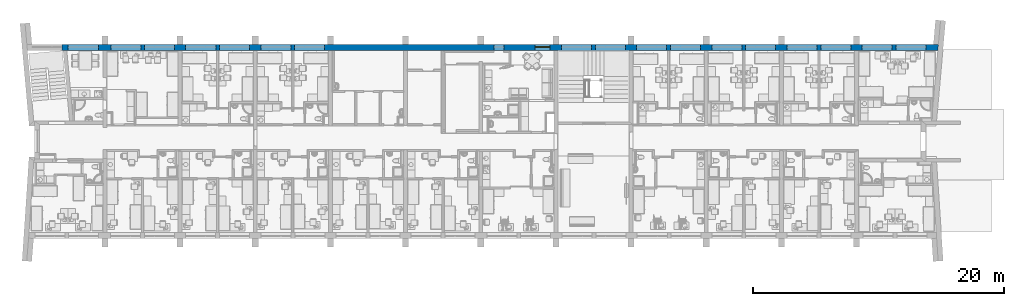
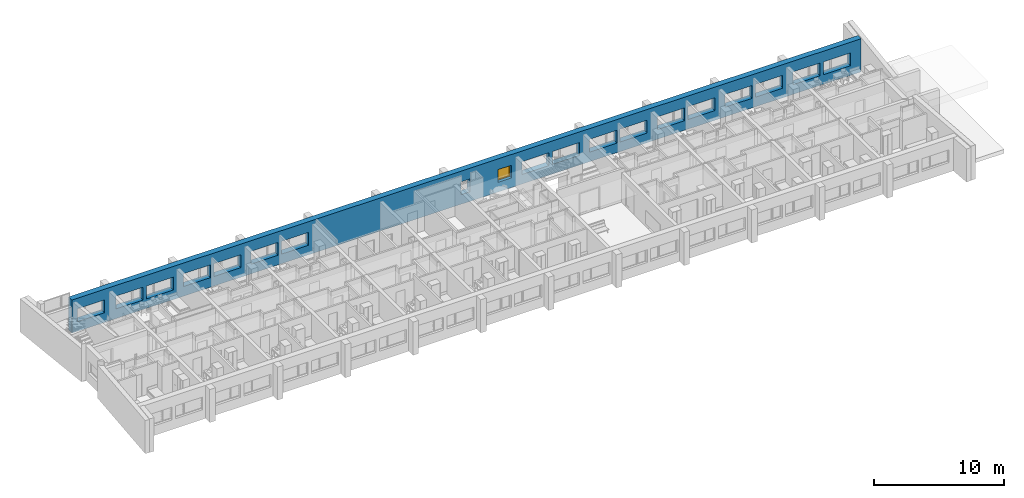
# One storey, part 18 of 172: 1 wall, 1 window, 19 openings.
"""IFC2X3 building model written with IfcOpenShell, lengths in millimetres."""

from ifc_helpers import new_model, entity, si_unit, converted_unit, money_unit, direction, frame, origin_with_axes, place, context, subcontext, project, spatial, polyline, outline, extrude, open_shell, faceted_brep, surface_model, source, transform, mapped, material, material_list, layer, layer_set, layer_usage, type_object, element, fill, save


model = new_model("IFC2X3")

# Units and contexts
model_context = context("Model", 3, precision=1e-05, world=origin_with_axes(), true_north=direction((0.0, 1.0)))
body_context = subcontext(model_context, "Body", "Model", "MODEL_VIEW")
ifc_project = project(units=[si_unit("LENGTHUNIT", "METRE", prefix="MILLI"), si_unit("AREAUNIT", "SQUARE_METRE"), si_unit("VOLUMEUNIT", "CUBIC_METRE"), converted_unit("PLANEANGLEUNIT", "DEGREE", entity("IfcPlaneAngleMeasure", 0.0174532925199), si_unit("PLANEANGLEUNIT", "RADIAN"), dimensions=[0, 0, 0, 0, 0, 0, 0]), si_unit("SOLIDANGLEUNIT", "STERADIAN"), money_unit("USD"), converted_unit("TIMEUNIT", "Year", entity("IfcTimeMeasure", 31556926.0), si_unit("TIMEUNIT", "SECOND"), dimensions=[0, 0, 0, 0, 0, 0, 0]), si_unit("MASSUNIT", "GRAM"), si_unit("THERMODYNAMICTEMPERATUREUNIT", "DEGREE_CELSIUS"), si_unit("LUMINOUSINTENSITYUNIT", "LUMEN")], contexts=[model_context])

# Site, building, storey
site_placement = place(None, origin_with_axes())
site = spatial("IfcSite", under=ifc_project, at=site_placement, Name="Site", CompositionType="ELEMENT")
building_placement = place(site_placement, origin_with_axes())
building = spatial("IfcBuilding", under=site, at=building_placement, Name="Building", CompositionType="ELEMENT")
storey_placement = place(building_placement, frame((0.0, 0.0, 3200.0), z_axis=(0.0, 0.0, 1.0), x_axis=(1.0, 0.0, 0.0)))
storey = spatial("IfcBuildingStorey", under=building, at=storey_placement, Name="3KORRUS", CompositionType="ELEMENT", Elevation=3200.0)

# Wall, openings, window
ifc_material_1 = material(Name="Olemasolevad seinad tellis, uus viimistlus")
ifc_layer = layer(ifc_material_1, 500.0, ventilated="UNKNOWN")
ifc_layer_set = layer_set([ifc_layer], Name="Olemasolevad seinad tellis, uus viimistlus 500")
ifc_layer_usage = layer_usage(ifc_layer_set, "AXIS2", "POSITIVE", -100.0)
wall_type = type_object("IfcWallType", Name="Olemasolevad seinad tellis, uus viimistlus 500", PredefinedType="NOTDEFINED")
wall_placement = place(storey_placement, frame((-51569.3388124, -5039.6041088, 0.0), z_axis=(0.0, 0.0, 1.0), x_axis=(1.0, 0.0, 0.0)))
wall = element("IfcWallStandardCase", 1, at=wall_placement, inside=storey, type_object=wall_type, material=ifc_layer_usage, Name="VS1", ObjectType="VS1", context=body_context, shape_type="SweptSolid", body=[
    extrude(outline(polyline([(0.0, -100.0), (69914.7195482, -100.0), (69959.6995146, 400.0), (0.0, 400.0), (0.0, -100.0)])), origin_with_axes(), (0.0, 0.0, 1.0), 3100.0),
])
opening_1_placement = place(wall_placement, frame((34879.0421091, 0.0, 900.0), z_axis=(0.0, 0.0, 1.0), x_axis=(1.0, 0.0, 0.0)))
element("IfcOpeningElement", 2, at=opening_1_placement, cuts=wall, Name="WD - 001", context=body_context, shape_type="SweptSolid", body=[
    extrude(outline(polyline([(-400.0, 1200.0), (-400.0, 0.0), (400.0, 0.0), (400.0, 1200.0), (-400.0, 1200.0)])), frame((0.0, 200.0, 0.0), z_axis=(0.0, -1.0, 0.0), x_axis=(1.0, 0.0, 0.0)), (0.0, 0.0, 1.0), 800.0),
    extrude(outline(polyline([(-400.0, 0.0), (-400.0, -1200.0), (400.0, -1200.0), (400.0, 0.0), (-400.0, 0.0)])), frame((0.0, 200.0, 0.0), z_axis=(0.0, 1.0, 0.0), x_axis=(1.0, 0.0, 0.0)), (0.0, 0.0, 1.0), 700.0),
])
opening_2_placement = place(wall_placement, frame((38352.6323068, 0.0, 900.0), z_axis=(0.0, 0.0, 1.0), x_axis=(1.0, 0.0, 0.0)))
opening_2 = element("IfcOpeningElement", 3, at=opening_2_placement, cuts=wall, Name="A3", context=body_context, shape_type="SweptSolid", body=[
    extrude(outline(polyline([(-600.0, 1200.0), (-600.0, 0.0), (600.0, 0.0), (600.0, 1200.0), (-600.0, 1200.0)])), frame((0.0, 200.0, 0.0), z_axis=(0.0, -1.0, 0.0), x_axis=(1.0, 0.0, 0.0)), (0.0, 0.0, 1.0), 800.0),
    extrude(outline(polyline([(-600.0, 0.0), (-600.0, -1200.0), (600.0, -1200.0), (600.0, 0.0), (-600.0, 0.0)])), frame((0.0, 200.0, 0.0), z_axis=(0.0, 1.0, 0.0), x_axis=(1.0, 0.0, 0.0)), (0.0, 0.0, 1.0), 700.0),
])
opening_3_placement = place(wall_placement, frame((1700.0, 0.0, 900.0), z_axis=(0.0, 0.0, 1.0), x_axis=(1.0, 0.0, 0.0)))
element("IfcOpeningElement", 4, at=opening_3_placement, cuts=wall, Name="A1", context=body_context, shape_type="SweptSolid", body=[
    extrude(outline(polyline([(1200.0, 1200.0), (-1200.0, 1200.0), (-1200.0, 0.0), (1200.0, 0.0), (1200.0, 1200.0)])), frame((0.0, 200.0, 0.0), z_axis=(0.0, -1.0, 0.0), x_axis=(1.0, 0.0, 0.0)), (0.0, 0.0, 1.0), 800.0),
    extrude(outline(polyline([(1200.0, 0.0), (-1200.0, 0.0), (-1200.0, -1200.0), (1200.0, -1200.0), (1200.0, 0.0)])), frame((0.0, 200.0, 0.0), z_axis=(0.0, 1.0, 0.0), x_axis=(1.0, 0.0, 0.0)), (0.0, 0.0, 1.0), 700.0),
])
opening_4_placement = place(wall_placement, frame((7795.91085613, 0.0, 900.0), z_axis=(0.0, 0.0, 1.0), x_axis=(1.0, 0.0, 0.0)))
element("IfcOpeningElement", 5, at=opening_4_placement, cuts=wall, Name="A1", context=body_context, shape_type="SweptSolid", body=[
    extrude(outline(polyline([(1200.0, 1200.0), (-1200.0, 1200.0), (-1200.0, 0.0), (1200.0, 0.0), (1200.0, 1200.0)])), frame((0.0, 200.0, 0.0), z_axis=(0.0, -1.0, 0.0), x_axis=(1.0, 0.0, 0.0)), (0.0, 0.0, 1.0), 800.0),
    extrude(outline(polyline([(1200.0, 0.0), (-1200.0, 0.0), (-1200.0, -1200.0), (1200.0, -1200.0), (1200.0, 0.0)])), frame((0.0, 200.0, 0.0), z_axis=(0.0, 1.0, 0.0), x_axis=(1.0, 0.0, 0.0)), (0.0, 0.0, 1.0), 700.0),
])
opening_5_placement = place(wall_placement, frame((5095.91085613, 0.0, 900.0), z_axis=(0.0, 0.0, 1.0), x_axis=(1.0, 0.0, 0.0)))
element("IfcOpeningElement", 6, at=opening_5_placement, cuts=wall, Name="A2", context=body_context, shape_type="SweptSolid", body=[
    extrude(outline(polyline([(-1200.0, 1200.0), (-1200.0, 0.0), (1200.0, 0.0), (1200.0, 1200.0), (-1200.0, 1200.0)])), frame((0.0, 200.0, 0.0), z_axis=(0.0, -1.0, 0.0), x_axis=(1.0, 0.0, 0.0)), (0.0, 0.0, 1.0), 800.0),
    extrude(outline(polyline([(-1200.0, 0.0), (-1200.0, -1200.0), (1200.0, -1200.0), (1200.0, 0.0), (-1200.0, 0.0)])), frame((0.0, 200.0, 0.0), z_axis=(0.0, 1.0, 0.0), x_axis=(1.0, 0.0, 0.0)), (0.0, 0.0, 1.0), 700.0),
])
opening_6_placement = place(wall_placement, frame((13779.0421091, 0.0, 900.0), z_axis=(0.0, 0.0, 1.0), x_axis=(1.0, 0.0, 0.0)))
element("IfcOpeningElement", 7, at=opening_6_placement, cuts=wall, Name="A1", context=body_context, shape_type="SweptSolid", body=[
    extrude(outline(polyline([(1200.0, 1200.0), (-1200.0, 1200.0), (-1200.0, 0.0), (1200.0, 0.0), (1200.0, 1200.0)])), frame((0.0, 200.0, 0.0), z_axis=(0.0, -1.0, 0.0), x_axis=(1.0, 0.0, 0.0)), (0.0, 0.0, 1.0), 800.0),
    extrude(outline(polyline([(1200.0, 0.0), (-1200.0, 0.0), (-1200.0, -1200.0), (1200.0, -1200.0), (1200.0, 0.0)])), frame((0.0, 200.0, 0.0), z_axis=(0.0, 1.0, 0.0), x_axis=(1.0, 0.0, 0.0)), (0.0, 0.0, 1.0), 700.0),
])
opening_7_placement = place(wall_placement, frame((11079.0421091, 0.0, 900.0), z_axis=(0.0, 0.0, 1.0), x_axis=(1.0, 0.0, 0.0)))
element("IfcOpeningElement", 8, at=opening_7_placement, cuts=wall, Name="A2", context=body_context, shape_type="SweptSolid", body=[
    extrude(outline(polyline([(-1200.0, 1200.0), (-1200.0, 0.0), (1200.0, 0.0), (1200.0, 1200.0), (-1200.0, 1200.0)])), frame((0.0, 200.0, 0.0), z_axis=(0.0, -1.0, 0.0), x_axis=(1.0, 0.0, 0.0)), (0.0, 0.0, 1.0), 800.0),
    extrude(outline(polyline([(-1200.0, 0.0), (-1200.0, -1200.0), (1200.0, -1200.0), (1200.0, 0.0), (-1200.0, 0.0)])), frame((0.0, 200.0, 0.0), z_axis=(0.0, 1.0, 0.0), x_axis=(1.0, 0.0, 0.0)), (0.0, 0.0, 1.0), 700.0),
])
opening_8_placement = place(wall_placement, frame((43769.0421091, 0.0, 900.0), z_axis=(0.0, 0.0, 1.0), x_axis=(1.0, 0.0, 0.0)))
element("IfcOpeningElement", 9, at=opening_8_placement, cuts=wall, Name="A1", context=body_context, shape_type="SweptSolid", body=[
    extrude(outline(polyline([(1200.0, 1200.0), (-1200.0, 1200.0), (-1200.0, 0.0), (1200.0, 0.0), (1200.0, 1200.0)])), frame((0.0, 200.0, 0.0), z_axis=(0.0, -1.0, 0.0), x_axis=(1.0, 0.0, 0.0)), (0.0, 0.0, 1.0), 800.0),
    extrude(outline(polyline([(1200.0, 0.0), (-1200.0, 0.0), (-1200.0, -1200.0), (1200.0, -1200.0), (1200.0, 0.0)])), frame((0.0, 200.0, 0.0), z_axis=(0.0, 1.0, 0.0), x_axis=(1.0, 0.0, 0.0)), (0.0, 0.0, 1.0), 700.0),
])
opening_9_placement = place(wall_placement, frame((41069.0421091, 0.0, 900.0), z_axis=(0.0, 0.0, 1.0), x_axis=(1.0, 0.0, 0.0)))
element("IfcOpeningElement", 10, at=opening_9_placement, cuts=wall, Name="A2", context=body_context, shape_type="SweptSolid", body=[
    extrude(outline(polyline([(-1200.0, 1200.0), (-1200.0, 0.0), (1200.0, 0.0), (1200.0, 1200.0), (-1200.0, 1200.0)])), frame((0.0, 200.0, 0.0), z_axis=(0.0, -1.0, 0.0), x_axis=(1.0, 0.0, 0.0)), (0.0, 0.0, 1.0), 800.0),
    extrude(outline(polyline([(-1200.0, 0.0), (-1200.0, -1200.0), (1200.0, -1200.0), (1200.0, 0.0), (-1200.0, 0.0)])), frame((0.0, 200.0, 0.0), z_axis=(0.0, 1.0, 0.0), x_axis=(1.0, 0.0, 0.0)), (0.0, 0.0, 1.0), 700.0),
])
opening_10_placement = place(wall_placement, frame((49769.0421091, 0.0, 900.0), z_axis=(0.0, 0.0, 1.0), x_axis=(1.0, 0.0, 0.0)))
element("IfcOpeningElement", 11, at=opening_10_placement, cuts=wall, Name="A1", context=body_context, shape_type="SweptSolid", body=[
    extrude(outline(polyline([(1200.0, 1200.0), (-1200.0, 1200.0), (-1200.0, 0.0), (1200.0, 0.0), (1200.0, 1200.0)])), frame((0.0, 200.0, 0.0), z_axis=(0.0, -1.0, 0.0), x_axis=(1.0, 0.0, 0.0)), (0.0, 0.0, 1.0), 800.0),
    extrude(outline(polyline([(1200.0, 0.0), (-1200.0, 0.0), (-1200.0, -1200.0), (1200.0, -1200.0), (1200.0, 0.0)])), frame((0.0, 200.0, 0.0), z_axis=(0.0, 1.0, 0.0), x_axis=(1.0, 0.0, 0.0)), (0.0, 0.0, 1.0), 700.0),
])
opening_11_placement = place(wall_placement, frame((47069.0421091, 0.0, 900.0), z_axis=(0.0, 0.0, 1.0), x_axis=(1.0, 0.0, 0.0)))
element("IfcOpeningElement", 12, at=opening_11_placement, cuts=wall, Name="A2", context=body_context, shape_type="SweptSolid", body=[
    extrude(outline(polyline([(-1200.0, 1200.0), (-1200.0, 0.0), (1200.0, 0.0), (1200.0, 1200.0), (-1200.0, 1200.0)])), frame((0.0, 200.0, 0.0), z_axis=(0.0, -1.0, 0.0), x_axis=(1.0, 0.0, 0.0)), (0.0, 0.0, 1.0), 800.0),
    extrude(outline(polyline([(-1200.0, 0.0), (-1200.0, -1200.0), (1200.0, -1200.0), (1200.0, 0.0), (-1200.0, 0.0)])), frame((0.0, 200.0, 0.0), z_axis=(0.0, 1.0, 0.0), x_axis=(1.0, 0.0, 0.0)), (0.0, 0.0, 1.0), 700.0),
])
opening_12_placement = place(wall_placement, frame((55769.0421091, 0.0, 900.0), z_axis=(0.0, 0.0, 1.0), x_axis=(1.0, 0.0, 0.0)))
element("IfcOpeningElement", 13, at=opening_12_placement, cuts=wall, Name="A1", context=body_context, shape_type="SweptSolid", body=[
    extrude(outline(polyline([(1200.0, 1200.0), (-1200.0, 1200.0), (-1200.0, 0.0), (1200.0, 0.0), (1200.0, 1200.0)])), frame((0.0, 200.0, 0.0), z_axis=(0.0, -1.0, 0.0), x_axis=(1.0, 0.0, 0.0)), (0.0, 0.0, 1.0), 800.0),
    extrude(outline(polyline([(1200.0, 0.0), (-1200.0, 0.0), (-1200.0, -1200.0), (1200.0, -1200.0), (1200.0, 0.0)])), frame((0.0, 200.0, 0.0), z_axis=(0.0, 1.0, 0.0), x_axis=(1.0, 0.0, 0.0)), (0.0, 0.0, 1.0), 700.0),
])
opening_13_placement = place(wall_placement, frame((53069.0421091, 0.0, 900.0), z_axis=(0.0, 0.0, 1.0), x_axis=(1.0, 0.0, 0.0)))
element("IfcOpeningElement", 14, at=opening_13_placement, cuts=wall, Name="A2", context=body_context, shape_type="SweptSolid", body=[
    extrude(outline(polyline([(-1200.0, 1200.0), (-1200.0, 0.0), (1200.0, 0.0), (1200.0, 1200.0), (-1200.0, 1200.0)])), frame((0.0, 200.0, 0.0), z_axis=(0.0, -1.0, 0.0), x_axis=(1.0, 0.0, 0.0)), (0.0, 0.0, 1.0), 800.0),
    extrude(outline(polyline([(-1200.0, 0.0), (-1200.0, -1200.0), (1200.0, -1200.0), (1200.0, 0.0), (-1200.0, 0.0)])), frame((0.0, 200.0, 0.0), z_axis=(0.0, 1.0, 0.0), x_axis=(1.0, 0.0, 0.0)), (0.0, 0.0, 1.0), 700.0),
])
opening_14_placement = place(wall_placement, frame((61769.0421091, 0.0, 900.0), z_axis=(0.0, 0.0, 1.0), x_axis=(1.0, 0.0, 0.0)))
element("IfcOpeningElement", 15, at=opening_14_placement, cuts=wall, Name="A1", context=body_context, shape_type="SweptSolid", body=[
    extrude(outline(polyline([(1200.0, 1200.0), (-1200.0, 1200.0), (-1200.0, 0.0), (1200.0, 0.0), (1200.0, 1200.0)])), frame((0.0, 200.0, 0.0), z_axis=(0.0, -1.0, 0.0), x_axis=(1.0, 0.0, 0.0)), (0.0, 0.0, 1.0), 800.0),
    extrude(outline(polyline([(1200.0, 0.0), (-1200.0, 0.0), (-1200.0, -1200.0), (1200.0, -1200.0), (1200.0, 0.0)])), frame((0.0, 200.0, 0.0), z_axis=(0.0, 1.0, 0.0), x_axis=(1.0, 0.0, 0.0)), (0.0, 0.0, 1.0), 700.0),
])
opening_15_placement = place(wall_placement, frame((59069.0421091, 0.0, 900.0), z_axis=(0.0, 0.0, 1.0), x_axis=(1.0, 0.0, 0.0)))
element("IfcOpeningElement", 16, at=opening_15_placement, cuts=wall, Name="A2", context=body_context, shape_type="SweptSolid", body=[
    extrude(outline(polyline([(-1200.0, 1200.0), (-1200.0, 0.0), (1200.0, 0.0), (1200.0, 1200.0), (-1200.0, 1200.0)])), frame((0.0, 200.0, 0.0), z_axis=(0.0, -1.0, 0.0), x_axis=(1.0, 0.0, 0.0)), (0.0, 0.0, 1.0), 800.0),
    extrude(outline(polyline([(-1200.0, 0.0), (-1200.0, -1200.0), (1200.0, -1200.0), (1200.0, 0.0), (-1200.0, 0.0)])), frame((0.0, 200.0, 0.0), z_axis=(0.0, 1.0, 0.0), x_axis=(1.0, 0.0, 0.0)), (0.0, 0.0, 1.0), 700.0),
])
opening_16_placement = place(wall_placement, frame((67773.3244043, 0.0, 900.0), z_axis=(0.0, 0.0, 1.0), x_axis=(1.0, 0.0, 0.0)))
element("IfcOpeningElement", 17, at=opening_16_placement, cuts=wall, Name="A1", context=body_context, shape_type="SweptSolid", body=[
    extrude(outline(polyline([(1200.0, 1200.0), (-1200.0, 1200.0), (-1200.0, 0.0), (1200.0, 0.0), (1200.0, 1200.0)])), frame((0.0, 200.0, 0.0), z_axis=(0.0, -1.0, 0.0), x_axis=(1.0, 0.0, 0.0)), (0.0, 0.0, 1.0), 800.0),
    extrude(outline(polyline([(1200.0, 0.0), (-1200.0, 0.0), (-1200.0, -1200.0), (1200.0, -1200.0), (1200.0, 0.0)])), frame((0.0, 200.0, 0.0), z_axis=(0.0, 1.0, 0.0), x_axis=(1.0, 0.0, 0.0)), (0.0, 0.0, 1.0), 700.0),
])
opening_17_placement = place(wall_placement, frame((65073.3244043, 0.0, 900.0), z_axis=(0.0, 0.0, 1.0), x_axis=(1.0, 0.0, 0.0)))
element("IfcOpeningElement", 18, at=opening_17_placement, cuts=wall, Name="A2", context=body_context, shape_type="SweptSolid", body=[
    extrude(outline(polyline([(-1200.0, 1200.0), (-1200.0, 0.0), (1200.0, 0.0), (1200.0, 1200.0), (-1200.0, 1200.0)])), frame((0.0, 200.0, 0.0), z_axis=(0.0, -1.0, 0.0), x_axis=(1.0, 0.0, 0.0)), (0.0, 0.0, 1.0), 800.0),
    extrude(outline(polyline([(-1200.0, 0.0), (-1200.0, -1200.0), (1200.0, -1200.0), (1200.0, 0.0), (-1200.0, 0.0)])), frame((0.0, 200.0, 0.0), z_axis=(0.0, 1.0, 0.0), x_axis=(1.0, 0.0, 0.0)), (0.0, 0.0, 1.0), 700.0),
])
opening_18_placement = place(wall_placement, frame((19767.4765851, 0.0, 900.0), z_axis=(0.0, 0.0, 1.0), x_axis=(1.0, 0.0, 0.0)))
element("IfcOpeningElement", 19, at=opening_18_placement, cuts=wall, Name="A1", context=body_context, shape_type="SweptSolid", body=[
    extrude(outline(polyline([(1200.0, 1200.0), (-1200.0, 1200.0), (-1200.0, 0.0), (1200.0, 0.0), (1200.0, 1200.0)])), frame((0.0, 200.0, 0.0), z_axis=(0.0, -1.0, 0.0), x_axis=(1.0, 0.0, 0.0)), (0.0, 0.0, 1.0), 800.0),
    extrude(outline(polyline([(1200.0, 0.0), (-1200.0, 0.0), (-1200.0, -1200.0), (1200.0, -1200.0), (1200.0, 0.0)])), frame((0.0, 200.0, 0.0), z_axis=(0.0, 1.0, 0.0), x_axis=(1.0, 0.0, 0.0)), (0.0, 0.0, 1.0), 700.0),
])
opening_19_placement = place(wall_placement, frame((17067.4765851, 0.0, 900.0), z_axis=(0.0, 0.0, 1.0), x_axis=(1.0, 0.0, 0.0)))
element("IfcOpeningElement", 20, at=opening_19_placement, cuts=wall, Name="A2", context=body_context, shape_type="SweptSolid", body=[
    extrude(outline(polyline([(-1200.0, 1200.0), (-1200.0, 0.0), (1200.0, 0.0), (1200.0, 1200.0), (-1200.0, 1200.0)])), frame((0.0, 200.0, 0.0), z_axis=(0.0, -1.0, 0.0), x_axis=(1.0, 0.0, 0.0)), (0.0, 0.0, 1.0), 800.0),
    extrude(outline(polyline([(-1200.0, 0.0), (-1200.0, -1200.0), (1200.0, -1200.0), (1200.0, 0.0), (-1200.0, 0.0)])), frame((0.0, 200.0, 0.0), z_axis=(0.0, 1.0, 0.0), x_axis=(1.0, 0.0, 0.0)), (0.0, 0.0, 1.0), 700.0),
])
ifc_material_2 = material(Name="Background")
ifc_material_list = material_list([ifc_material_2])
window_style = type_object("IfcWindowStyle", Name="Window 19", ConstructionType="NOTDEFINED", OperationType="SINGLE_PANEL", ParameterTakesPrecedence=False, Sizeable=False)
shared_shape = source(origin_with_axes(), body_context, "Body", "SurfaceModel", [
    faceted_brep([(-575.0, -200.0, 1150.0), (-600.0, -200.0, 1150.0), (-600.0, -250.0, 1150.0), (-550.0, -250.0, 1150.0), (-550.0, -225.0, 1150.0), (-575.0, -225.0, 1150.0), (-575.0, -200.0, 50.0), (-600.0, -200.0, 50.0), (-600.0, -250.0, 50.0), (-550.0, -250.0, 50.0), (-550.0, -225.0, 50.0), (-575.0, -225.0, 50.0)], [[[0, 1, 2, 3, 4, 5]], [[6, 7, 1, 0]], [[1, 7, 8, 2]], [[2, 8, 9, 3]], [[4, 3, 9, 10]], [[10, 11, 5, 4]], [[5, 11, 6, 0]], [[11, 10, 9, 8, 7, 6]]]),
    faceted_brep([(550.0, -225.0, 1150.0), (550.0, -250.0, 1150.0), (600.0, -250.0, 1150.0), (600.0, -200.0, 1150.0), (575.0, -200.0, 1150.0), (575.0, -225.0, 1150.0), (550.0, -225.0, 50.0), (550.0, -250.0, 50.0), (600.0, -250.0, 50.0), (600.0, -200.0, 50.0), (575.0, -200.0, 50.0), (575.0, -225.0, 50.0)], [[[0, 1, 2, 3, 4, 5]], [[6, 7, 1, 0]], [[8, 2, 1, 7]], [[9, 3, 2, 8]], [[4, 3, 9, 10]], [[10, 11, 5, 4]], [[5, 11, 6, 0]], [[11, 10, 9, 8, 7, 6]]]),
    faceted_brep([(550.0, -225.0, 50.0), (550.0, -250.0, 50.0), (600.0, -250.0, 50.0), (600.0, -200.0, 50.0), (575.0, -200.0, 50.0), (575.0, -225.0, 50.0), (-550.0, -225.0, 50.0), (-550.0, -250.0, 50.0), (-600.0, -250.0, 50.0), (-600.0, -250.0, 0.0), (600.0, -250.0, 0.0), (600.0, -200.0, 0.0), (-575.0, -200.0, 25.0), (575.0, -200.0, 25.0), (-600.0, -200.0, 0.0), (-600.0, -200.0, 50.0), (-575.0, -200.0, 50.0), (575.0, -225.0, 25.0), (-575.0, -225.0, 25.0), (-575.0, -225.0, 50.0)], [[[0, 1, 2, 3, 4, 5]], [[6, 7, 1, 0]], [[8, 9, 10, 2, 1, 7]], [[11, 3, 2, 10]], [[12, 13, 4, 3, 11, 14, 15, 16]], [[13, 17, 5, 4]], [[5, 17, 18, 19, 6, 0]], [[19, 16, 15, 8, 7, 6]], [[15, 14, 9, 8]], [[14, 11, 10, 9]], [[12, 18, 17, 13]], [[19, 18, 12, 16]]]),
    faceted_brep([(-575.0, -200.0, 1150.0), (-600.0, -200.0, 1150.0), (-600.0, -200.0, 1200.0), (600.0, -200.0, 1200.0), (600.0, -200.0, 1150.0), (575.0, -200.0, 1150.0), (575.0, -200.0, 1175.0), (-575.0, -200.0, 1175.0), (-575.0, -225.0, 1150.0), (-550.0, -225.0, 1150.0), (-550.0, -250.0, 1150.0), (-600.0, -250.0, 1150.0), (-600.0, -250.0, 1200.0), (600.0, -250.0, 1200.0), (600.0, -250.0, 1150.0), (575.0, -225.0, 1150.0), (550.0, -250.0, 1150.0), (550.0, -225.0, 1150.0), (575.0, -225.0, 1175.0), (-575.0, -225.0, 1175.0)], [[[0, 1, 2, 3, 4, 5, 6, 7]], [[8, 9, 10, 11, 1, 0]], [[2, 1, 11, 12]], [[3, 2, 12, 13]], [[4, 3, 13, 14]], [[15, 5, 4, 14, 16, 17]], [[5, 15, 18, 6]], [[6, 18, 19, 7]], [[7, 19, 8, 0]], [[17, 9, 8, 19, 18, 15]], [[17, 16, 10, 9]], [[14, 13, 12, 11, 10, 16]]]),
    faceted_brep([(-525.0, -225.0, 1125.0), (-525.0, -175.0, 1125.0), (-575.0, -175.0, 1125.0), (-575.0, -225.0, 1125.0), (-525.0, -225.0, 75.0), (-525.0, -175.0, 75.0), (-575.0, -175.0, 75.0), (-575.0, -225.0, 75.0)], [[[0, 1, 2, 3]], [[4, 5, 1, 0]], [[1, 5, 6, 2]], [[3, 2, 6, 7]], [[0, 3, 7, 4]], [[7, 6, 5, 4]]]),
    faceted_brep([(525.0, -225.0, 75.0), (525.0, -175.0, 75.0), (575.0, -175.0, 75.0), (575.0, -225.0, 75.0), (525.0, -225.0, 1125.0), (525.0, -175.0, 1125.0), (575.0, -175.0, 1125.0), (575.0, -225.0, 1125.0)], [[[0, 1, 2, 3]], [[4, 5, 1, 0]], [[1, 5, 6, 2]], [[3, 2, 6, 7]], [[0, 3, 7, 4]], [[7, 6, 5, 4]]]),
    faceted_brep([(575.0, -225.0, 25.0), (575.0, -175.0, 25.0), (575.0, -175.0, 75.0), (575.0, -225.0, 75.0), (-575.0, -225.0, 25.0), (-575.0, -175.0, 25.0), (-575.0, -175.0, 75.0), (-525.0, -175.0, 75.0), (525.0, -175.0, 75.0), (525.0, -225.0, 75.0), (-525.0, -225.0, 75.0), (-575.0, -225.0, 75.0)], [[[0, 1, 2, 3]], [[4, 5, 1, 0]], [[1, 5, 6, 7, 8, 2]], [[3, 2, 8, 9]], [[0, 3, 9, 10, 11, 4]], [[11, 6, 5, 4]], [[10, 7, 6, 11]], [[9, 8, 7, 10]]]),
    faceted_brep([(-575.0, -225.0, 1175.0), (-575.0, -175.0, 1175.0), (-575.0, -175.0, 1125.0), (-575.0, -225.0, 1125.0), (575.0, -225.0, 1175.0), (575.0, -175.0, 1175.0), (575.0, -175.0, 1125.0), (525.0, -175.0, 1125.0), (-525.0, -175.0, 1125.0), (-525.0, -225.0, 1125.0), (525.0, -225.0, 1125.0), (575.0, -225.0, 1125.0)], [[[0, 1, 2, 3]], [[4, 5, 1, 0]], [[1, 5, 6, 7, 8, 2]], [[3, 2, 8, 9]], [[0, 3, 9, 10, 11, 4]], [[11, 6, 5, 4]], [[10, 7, 6, 11]], [[9, 8, 7, 10]]]),
    surface_model("IfcShellBasedSurfaceModel", [(-525.0, -210.0, 75.0), (525.0, -210.0, 75.0), (525.0, -210.0, 1125.0), (-525.0, -210.0, 1125.0)], [open_shell([[[0, 1, 2, 3]]])]),
    surface_model("IfcShellBasedSurfaceModel", [(-525.0, -190.0, 75.0), (-525.0, -190.0, 1125.0), (525.0, -190.0, 1125.0), (525.0, -190.0, 75.0)], [open_shell([[[0, 1, 2, 3]]])]),
])
window_placement = place(opening_2_placement, frame((-600.0, 0.0, 0.0), z_axis=(0.0, 0.0, 1.0), x_axis=(1.0, 0.0, 0.0)))
window = element("IfcWindow", 21, at=window_placement, inside=storey, type_object=window_style, material=ifc_material_list, Name="A3", ObjectType="A3", OverallHeight=1200.0, OverallWidth=1200.0, context=body_context, shape_type="MappedRepresentation", body=[
    mapped(shared_shape, transform((600.0, 400.0, 0.0))),
])
fill(opening_2, window)

save(model, "model.ifc")
